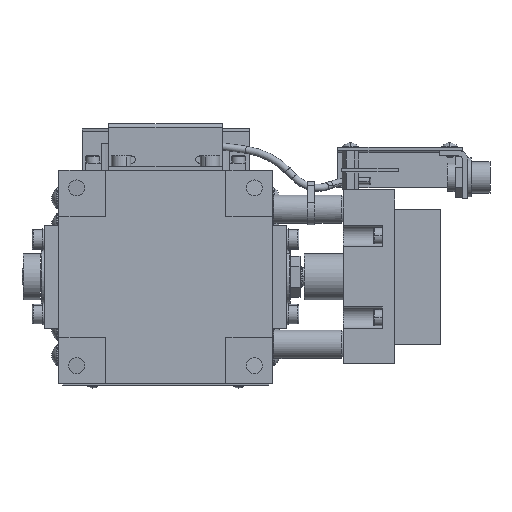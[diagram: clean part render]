
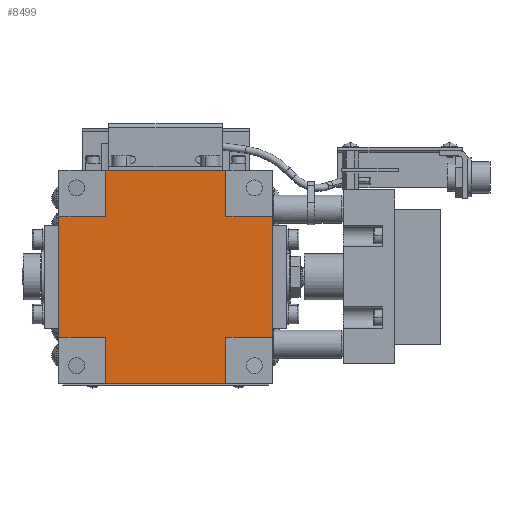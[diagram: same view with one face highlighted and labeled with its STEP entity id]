
A CAD part, front view. The second image highlights one B-rep face of the part: STEP entity #8499.
In plain terms, the highlighted planar face has unit normal (0, -1, 0).
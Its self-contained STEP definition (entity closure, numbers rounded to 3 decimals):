
#277 = ORIENTED_EDGE ( 'NONE', *, *, #25747, .T. ) ;
#507 = LINE ( 'NONE', #2206, #14663 ) ;
#617 = VERTEX_POINT ( 'NONE', #7155 ) ;
#725 = CARTESIAN_POINT ( 'NONE',  ( 17., 0.3, -17. ) ) ;
#1126 = ORIENTED_EDGE ( 'NONE', *, *, #2357, .T. ) ;
#1542 = VERTEX_POINT ( 'NONE', #10931 ) ;
#1962 = ORIENTED_EDGE ( 'NONE', *, *, #19167, .T. ) ;
#2206 = CARTESIAN_POINT ( 'NONE',  ( -30., 0.3, 17. ) ) ;
#2208 = CARTESIAN_POINT ( 'NONE',  ( -30., 0.3, -17. ) ) ;
#2357 = EDGE_CURVE ( 'NONE', #14639, #15942, #10898, .T. ) ;
#2567 = VERTEX_POINT ( 'NONE', #24590 ) ;
#3362 = VECTOR ( 'NONE', #17029, 1000. ) ;
#3896 = FACE_OUTER_BOUND ( 'NONE', #26995, .T. ) ;
#3932 = VECTOR ( 'NONE', #22291, 1000. ) ;
#4297 = LINE ( 'NONE', #2208, #10951 ) ;
#4416 = VECTOR ( 'NONE', #22814, 1000. ) ;
#4419 = EDGE_CURVE ( 'NONE', #2567, #12074, #507, .T. ) ;
#4654 = EDGE_CURVE ( 'NONE', #5114, #14639, #14635, .T. ) ;
#5114 = VERTEX_POINT ( 'NONE', #25744 ) ;
#5139 = CARTESIAN_POINT ( 'NONE',  ( -30., 0.3, 17. ) ) ;
#5578 = DIRECTION ( 'NONE',  ( 0., 0., 1. ) ) ;
#5595 = DIRECTION ( 'NONE',  ( 1., 0., 0. ) ) ;
#5639 = LINE ( 'NONE', #25263, #25463 ) ;
#5878 = DIRECTION ( 'NONE',  ( -1., 0., 0. ) ) ;
#6175 = VERTEX_POINT ( 'NONE', #26557 ) ;
#6496 = EDGE_CURVE ( 'NONE', #15942, #617, #26344, .T. ) ;
#6592 = CARTESIAN_POINT ( 'NONE',  ( 30., 0.3, 17. ) ) ;
#7155 = CARTESIAN_POINT ( 'NONE',  ( 30., 0.3, -17. ) ) ;
#7899 = CARTESIAN_POINT ( 'NONE',  ( -30., 0.3, 17. ) ) ;
#7908 = LINE ( 'NONE', #16205, #4416 ) ;
#7915 = EDGE_CURVE ( 'NONE', #8327, #26879, #4297, .T. ) ;
#8327 = VERTEX_POINT ( 'NONE', #28128 ) ;
#8382 = VECTOR ( 'NONE', #11551, 1000. ) ;
#8499 = ADVANCED_FACE ( 'NONE', ( #3896 ), #13934, .F. ) ;
#8952 = AXIS2_PLACEMENT_3D ( 'NONE', #17863, #11065, #27778 ) ;
#9097 = CARTESIAN_POINT ( 'NONE',  ( -17., 0.3, 17. ) ) ;
#9571 = VECTOR ( 'NONE', #5578, 1000. ) ;
#10155 = VECTOR ( 'NONE', #14528, 1000. ) ;
#10898 = LINE ( 'NONE', #13817, #21620 ) ;
#10931 = CARTESIAN_POINT ( 'NONE',  ( -17., 0.3, 30. ) ) ;
#10951 = VECTOR ( 'NONE', #20359, 1000. ) ;
#11040 = ORIENTED_EDGE ( 'NONE', *, *, #17354, .T. ) ;
#11065 = DIRECTION ( 'NONE',  ( 0., 1., 0. ) ) ;
#11551 = DIRECTION ( 'NONE',  ( 0., 0., -1. ) ) ;
#12068 = CARTESIAN_POINT ( 'NONE',  ( 17., 0.3, 17. ) ) ;
#12074 = VERTEX_POINT ( 'NONE', #5139 ) ;
#12446 = CARTESIAN_POINT ( 'NONE',  ( -17., 0.3, -30. ) ) ;
#12565 = ORIENTED_EDGE ( 'NONE', *, *, #21764, .T. ) ;
#12584 = ORIENTED_EDGE ( 'NONE', *, *, #23478, .T. ) ;
#13478 = LINE ( 'NONE', #17249, #18862 ) ;
#13817 = CARTESIAN_POINT ( 'NONE',  ( 17., 0.3, -30. ) ) ;
#13934 = PLANE ( 'NONE',  #8952 ) ;
#14528 = DIRECTION ( 'NONE',  ( 0., 0., -1. ) ) ;
#14635 = LINE ( 'NONE', #12446, #3362 ) ;
#14639 = VERTEX_POINT ( 'NONE', #27210 ) ;
#14663 = VECTOR ( 'NONE', #27187, 1000. ) ;
#14865 = LINE ( 'NONE', #24647, #3932 ) ;
#15495 = LINE ( 'NONE', #9097, #8382 ) ;
#15683 = ORIENTED_EDGE ( 'NONE', *, *, #19566, .T. ) ;
#15942 = VERTEX_POINT ( 'NONE', #27161 ) ;
#16187 = LINE ( 'NONE', #7899, #10155 ) ;
#16205 = CARTESIAN_POINT ( 'NONE',  ( 17., 0.3, 17. ) ) ;
#16857 = ORIENTED_EDGE ( 'NONE', *, *, #4654, .T. ) ;
#17029 = DIRECTION ( 'NONE',  ( 1., 0., 0. ) ) ;
#17249 = CARTESIAN_POINT ( 'NONE',  ( -17., 0.3, 30. ) ) ;
#17354 = EDGE_CURVE ( 'NONE', #617, #25350, #14865, .T. ) ;
#17863 = CARTESIAN_POINT ( 'NONE',  ( 0., 0.3, 0. ) ) ;
#18100 = ORIENTED_EDGE ( 'NONE', *, *, #6496, .T. ) ;
#18846 = CARTESIAN_POINT ( 'NONE',  ( -17., 0.3, -17. ) ) ;
#18862 = VECTOR ( 'NONE', #5878, 1000. ) ;
#19167 = EDGE_CURVE ( 'NONE', #26879, #5114, #5639, .T. ) ;
#19432 = ORIENTED_EDGE ( 'NONE', *, *, #7915, .T. ) ;
#19566 = EDGE_CURVE ( 'NONE', #1542, #2567, #15495, .T. ) ;
#20274 = ORIENTED_EDGE ( 'NONE', *, *, #4419, .T. ) ;
#20324 = VECTOR ( 'NONE', #5595, 1000. ) ;
#20359 = DIRECTION ( 'NONE',  ( 1., 0., 0. ) ) ;
#21620 = VECTOR ( 'NONE', #27555, 1000. ) ;
#21740 = LINE ( 'NONE', #12068, #9571 ) ;
#21764 = EDGE_CURVE ( 'NONE', #25350, #25929, #7908, .T. ) ;
#22291 = DIRECTION ( 'NONE',  ( 0., 0., 1. ) ) ;
#22814 = DIRECTION ( 'NONE',  ( -1., 0., 0. ) ) ;
#23478 = EDGE_CURVE ( 'NONE', #25929, #6175, #21740, .T. ) ;
#23525 = EDGE_CURVE ( 'NONE', #6175, #1542, #13478, .T. ) ;
#23688 = DIRECTION ( 'NONE',  ( 0., 0., -1. ) ) ;
#24564 = ORIENTED_EDGE ( 'NONE', *, *, #23525, .T. ) ;
#24590 = CARTESIAN_POINT ( 'NONE',  ( -17., 0.3, 17. ) ) ;
#24647 = CARTESIAN_POINT ( 'NONE',  ( 30., 0.3, 17. ) ) ;
#25263 = CARTESIAN_POINT ( 'NONE',  ( -17., 0.3, -30. ) ) ;
#25350 = VERTEX_POINT ( 'NONE', #6592 ) ;
#25463 = VECTOR ( 'NONE', #23688, 1000. ) ;
#25744 = CARTESIAN_POINT ( 'NONE',  ( -17., 0.3, -30. ) ) ;
#25747 = EDGE_CURVE ( 'NONE', #12074, #8327, #16187, .T. ) ;
#25929 = VERTEX_POINT ( 'NONE', #28729 ) ;
#26344 = LINE ( 'NONE', #725, #20324 ) ;
#26557 = CARTESIAN_POINT ( 'NONE',  ( 17., 0.3, 30. ) ) ;
#26879 = VERTEX_POINT ( 'NONE', #18846 ) ;
#26995 = EDGE_LOOP ( 'NONE', ( #18100, #11040, #12565, #12584, #24564, #15683, #20274, #277, #19432, #1962, #16857, #1126 ) ) ;
#27161 = CARTESIAN_POINT ( 'NONE',  ( 17., 0.3, -17. ) ) ;
#27187 = DIRECTION ( 'NONE',  ( -1., 0., 0. ) ) ;
#27210 = CARTESIAN_POINT ( 'NONE',  ( 17., 0.3, -30. ) ) ;
#27555 = DIRECTION ( 'NONE',  ( 0., 0., 1. ) ) ;
#27778 = DIRECTION ( 'NONE',  ( -1., 0., 0. ) ) ;
#28128 = CARTESIAN_POINT ( 'NONE',  ( -30., 0.3, -17. ) ) ;
#28729 = CARTESIAN_POINT ( 'NONE',  ( 17., 0.3, 17. ) ) ;
